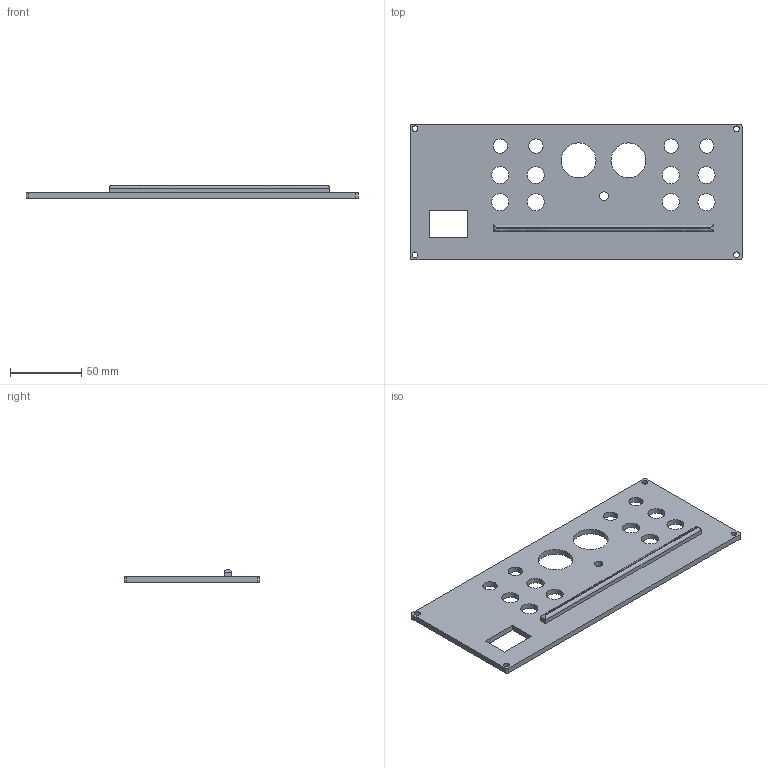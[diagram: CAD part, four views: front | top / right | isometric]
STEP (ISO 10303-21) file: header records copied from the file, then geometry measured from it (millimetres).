
FILE_DESCRIPTION(/* description */ (''),/* implementation_level */ '2;1');
FILE_NAME(/* name */ 'bluecase-4channel-back.step',/* time_stamp */ '2025-11-25T13:22:01-05:00',/* author */ (''),/* organization */ (''),/* preprocessor_version */ 'ST-DEVELOPER v20.1',/* originating_system */ 'Autodesk Translation Framework v14.17.0.0',/* authorisation */ '');
FILE_SCHEMA (('AUTOMOTIVE_DESIGN { 1 0 10303 214 3 1 1 }'));
Length unit declared in the file: millimetre
Products named in the file (1): (Unsaved)
Bounding box: 233.28 x 95.5 x 9 mm (x, y, z)
Volume: 81660.6 mm3; surface area: 45941.5 mm2
Topology: 1 solids, 1 shells, 42 faces, 113 edges, 74 vertices
Faces by surface type: cylinder 19, plane 15, bspline 8
Full cylindrical faces by diameter (mm): 4 x4, 6 x1, 10 x4, 12 x8, 24.5 x2
Entity records: 1728 total; most frequent: CARTESIAN_POINT 602, ORIENTED_EDGE 226, DIRECTION 193, EDGE_CURVE 113, EDGE_LOOP 83, VERTEX_POINT 74, AXIS2_PLACEMENT_3D 73, LINE 47
